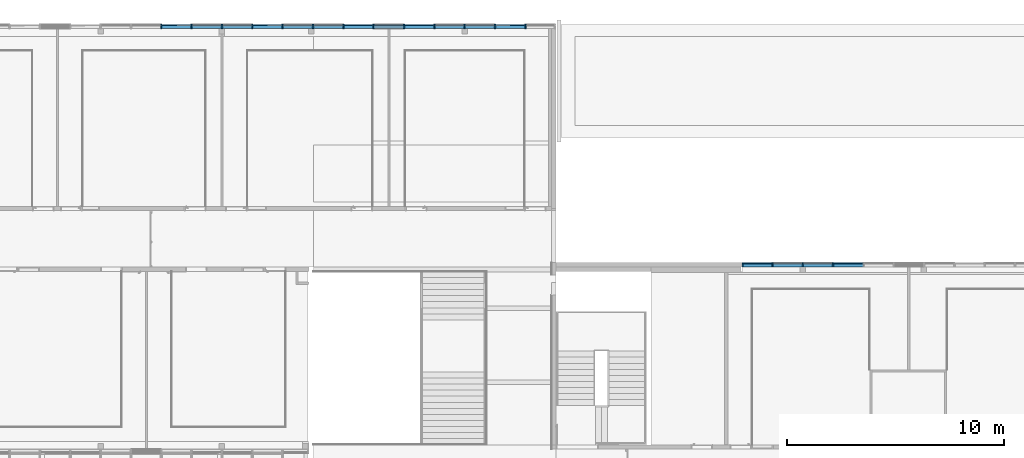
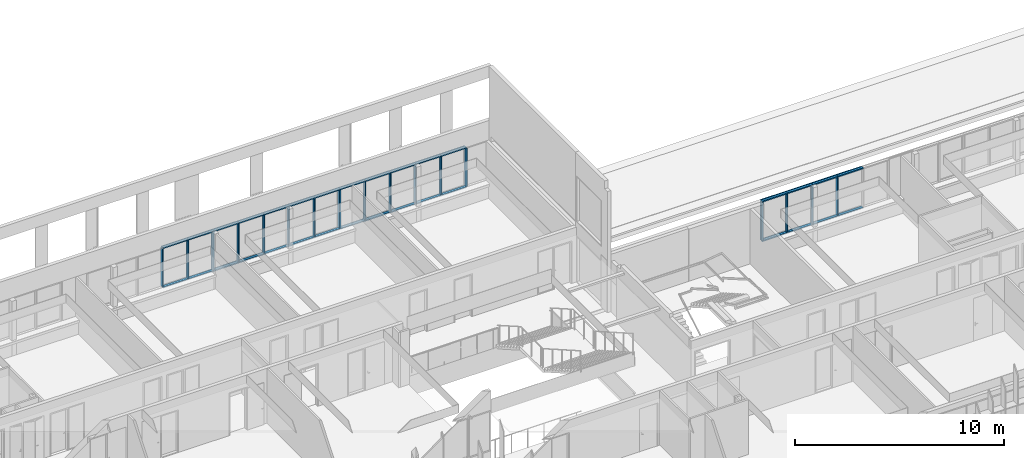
# One storey, part 17 of 106: 49 members, 2 elements without a shape of their own.
"""IFC2X3 building model written with IfcOpenShell, lengths in centimetres."""

from ifc_helpers import new_model, entity, si_unit, converted_unit, derived_unit, direction, frame, origin, place, context, subcontext, project, spatial, polyline, outline, extrude, source, transform, mapped, material, type_object, type_shapes, element, aggregate, save


model = new_model("IFC2X3")

# Units and contexts
model_context = context("Model", 3, precision=0.001, world=origin(), true_north=direction((6.12303176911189e-17, 1.0)))
body_context = subcontext(model_context, "Body", "Model", "MODEL_VIEW")
ifc_project = project(units=[si_unit("LENGTHUNIT", "METRE", prefix="CENTI"), si_unit("AREAUNIT", "SQUARE_METRE"), si_unit("VOLUMEUNIT", "CUBIC_METRE"), converted_unit("PLANEANGLEUNIT", "DEGREE", entity("IfcRatioMeasure", 0.0174532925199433), si_unit("PLANEANGLEUNIT", "RADIAN"), dimensions=[0, 0, 0, 0, 0, 0, 0]), si_unit("MASSUNIT", "GRAM", prefix="KILO"), derived_unit("MASSDENSITYUNIT", [(si_unit("MASSUNIT", "GRAM", prefix="KILO"), 1), (si_unit("LENGTHUNIT", "METRE"), -3)]), si_unit("TIMEUNIT", "SECOND"), si_unit("FREQUENCYUNIT", "HERTZ"), si_unit("THERMODYNAMICTEMPERATUREUNIT", "DEGREE_CELSIUS"), derived_unit("THERMALTRANSMITTANCEUNIT", [(si_unit("MASSUNIT", "GRAM", prefix="KILO"), 1), (si_unit("THERMODYNAMICTEMPERATUREUNIT", "KELVIN"), -1), (si_unit("TIMEUNIT", "SECOND"), -3)]), derived_unit("VOLUMETRICFLOWRATEUNIT", [(si_unit("LENGTHUNIT", "METRE"), 3), (si_unit("TIMEUNIT", "SECOND"), -1)]), si_unit("ELECTRICCURRENTUNIT", "AMPERE"), si_unit("ELECTRICVOLTAGEUNIT", "VOLT"), si_unit("POWERUNIT", "WATT"), si_unit("FORCEUNIT", "NEWTON", prefix="KILO"), si_unit("ILLUMINANCEUNIT", "LUX"), si_unit("LUMINOUSFLUXUNIT", "LUMEN"), si_unit("LUMINOUSINTENSITYUNIT", "CANDELA"), derived_unit("USERDEFINED", [(si_unit("MASSUNIT", "GRAM", prefix="KILO"), -1), (si_unit("LENGTHUNIT", "METRE"), -2), (si_unit("TIMEUNIT", "SECOND"), 3), (si_unit("LUMINOUSFLUXUNIT", "LUMEN"), 1)]), derived_unit("LINEARVELOCITYUNIT", [(si_unit("LENGTHUNIT", "METRE"), 1), (si_unit("TIMEUNIT", "SECOND"), -1)]), si_unit("PRESSUREUNIT", "PASCAL"), derived_unit("USERDEFINED", [(si_unit("LENGTHUNIT", "METRE"), -2), (si_unit("MASSUNIT", "GRAM", prefix="KILO"), 1), (si_unit("TIMEUNIT", "SECOND"), -2)])], contexts=[model_context])

# Site, building, storey
site_placement = place(None, frame((-2781.94577612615, 7442.24238424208, 0.0)))
site = spatial("IfcSite", under=ifc_project, at=site_placement, Name="Default", CompositionType="ELEMENT")
building_placement = place(site_placement, origin())
building = spatial("IfcBuilding", under=site, at=building_placement, CompositionType="ELEMENT")
storey_placement = place(building_placement, frame((0.0, 0.0, 422.0)))
storey = spatial("IfcBuildingStorey", under=building, at=storey_placement, Name="Toiture - Cuisine", CompositionType="ELEMENT", Elevation=421.999999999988)

# Curtain wall, members
curtain_wall_type = type_object("IfcCurtainWallType", Name="Mur-rideau:07 - mur rideau trame 140 cm", PredefinedType="NOTDEFINED")
curtain_wall_1_placement = place(building_placement, origin())
curtain_wall_1 = element("IfcCurtainWall", 1, at=curtain_wall_1_placement, inside=storey, type_object=curtain_wall_type, Name="Mur-rideau:07 - mur rideau trame 140 cm", ObjectType="Mur-rideau:07 - mur rideau trame 140 cm")
ifc_material = material(Name="Aluminium")
member_type_1 = type_object("IfcMemberType", Name="150 x 25mm Détails", PredefinedType="MEMBER")
shared_shape_1 = source(origin(), body_context, "Body", "SweptSolid", [
    extrude(outline(polyline([(-5.6666666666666, -3.24999999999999), (-3.66666666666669, -3.24999999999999), (-3.66666666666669, -0.868749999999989), (-0.166666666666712, -0.868749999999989), (-0.166666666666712, -3.25000000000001), (13.3333333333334, -3.25000000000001), (13.3333333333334, 3.24999999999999), (-0.16666666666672, 3.24999999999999), (-0.16666666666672, 0.868749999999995), (-3.66666666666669, 0.868749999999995), (-3.66666666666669, 3.25), (-5.6666666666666, 3.25), (-5.6666666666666, -3.24999999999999)])), frame((-3.24999999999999, -1.96666666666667, -140.0), z_axis=(0.0, 0.0, 1.0), x_axis=(0.0, -1.0, 0.0)), (0.0, 0.0, 1.0), 140.000000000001),
])
type_shapes(member_type_1, [shared_shape_1])
member_1_placement = place(building_placement, frame((-3929.50004159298, 26.0, 743.0), z_axis=(-1.0, 0.0, 0.0), x_axis=(0.0, 0.0, 1.0)))
member_1 = element("IfcMember", 2, at=member_1_placement, type_object=member_type_1, material=ifc_material, Name="Meneau rectangulaire:150 x 25mm Détails", ObjectType="Meneau rectangulaire:150 x 25mm Détails", context=body_context, shape_type="MappedRepresentation", body=[
    mapped(shared_shape_1, transform((0.0, 0.0, 0.0), scale=1.0)),
])
member_2_placement = place(building_placement, frame((-4069.50004159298, 26.0, 743.0), z_axis=(-1.0, 0.0, 0.0), x_axis=(0.0, 0.0, 1.0)))
member_2 = element("IfcMember", 3, at=member_2_placement, type_object=member_type_1, material=ifc_material, Name="Meneau rectangulaire:150 x 25mm Détails", ObjectType="Meneau rectangulaire:150 x 25mm Détails", context=body_context, shape_type="MappedRepresentation", body=[
    mapped(shared_shape_1, transform((0.0, 0.0, 0.0), scale=1.0)),
])
member_3_placement = place(building_placement, frame((-4209.50004159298, 26.0, 743.0), z_axis=(-1.0, 0.0, 0.0), x_axis=(0.0, 0.0, 1.0)))
member_3 = element("IfcMember", 4, at=member_3_placement, type_object=member_type_1, material=ifc_material, Name="Meneau rectangulaire:150 x 25mm Détails", ObjectType="Meneau rectangulaire:150 x 25mm Détails", context=body_context, shape_type="MappedRepresentation", body=[
    mapped(shared_shape_1, transform((0.0, 0.0, 0.0), scale=1.0)),
])
member_4_placement = place(building_placement, frame((-4349.50004159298, 26.0, 743.0), z_axis=(-1.0, 0.0, 0.0), x_axis=(0.0, 0.0, 1.0)))
member_4 = element("IfcMember", 5, at=member_4_placement, type_object=member_type_1, material=ifc_material, Name="Meneau rectangulaire:150 x 25mm Détails", ObjectType="Meneau rectangulaire:150 x 25mm Détails", context=body_context, shape_type="MappedRepresentation", body=[
    mapped(shared_shape_1, transform((0.0, 0.0, 0.0), scale=1.0)),
])
member_5_placement = place(building_placement, frame((-4489.50004159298, 26.0, 743.0), z_axis=(-1.0, 0.0, 0.0), x_axis=(0.0, 0.0, 1.0)))
member_5 = element("IfcMember", 6, at=member_5_placement, type_object=member_type_1, material=ifc_material, Name="Meneau rectangulaire:150 x 25mm Détails", ObjectType="Meneau rectangulaire:150 x 25mm Détails", context=body_context, shape_type="MappedRepresentation", body=[
    mapped(shared_shape_1, transform((0.0, 0.0, 0.0), scale=1.0)),
])
member_6_placement = place(building_placement, frame((-4629.50004159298, 26.0, 743.0), z_axis=(-1.0, 0.0, 0.0), x_axis=(0.0, 0.0, 1.0)))
member_6 = element("IfcMember", 7, at=member_6_placement, type_object=member_type_1, material=ifc_material, Name="Meneau rectangulaire:150 x 25mm Détails", ObjectType="Meneau rectangulaire:150 x 25mm Détails", context=body_context, shape_type="MappedRepresentation", body=[
    mapped(shared_shape_1, transform((0.0, 0.0, 0.0), scale=1.0)),
])
member_7_placement = place(building_placement, frame((-4769.50004159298, 26.0, 743.0), z_axis=(-1.0, 0.0, 0.0), x_axis=(0.0, 0.0, 1.0)))
member_7 = element("IfcMember", 8, at=member_7_placement, type_object=member_type_1, material=ifc_material, Name="Meneau rectangulaire:150 x 25mm Détails", ObjectType="Meneau rectangulaire:150 x 25mm Détails", context=body_context, shape_type="MappedRepresentation", body=[
    mapped(shared_shape_1, transform((0.0, 0.0, 0.0), scale=1.0)),
])
member_8_placement = place(building_placement, frame((-4909.50004159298, 26.0, 743.0), z_axis=(-1.0, 0.0, 0.0), x_axis=(0.0, 0.0, 1.0)))
member_8 = element("IfcMember", 9, at=member_8_placement, type_object=member_type_1, material=ifc_material, Name="Meneau rectangulaire:150 x 25mm Détails", ObjectType="Meneau rectangulaire:150 x 25mm Détails", context=body_context, shape_type="MappedRepresentation", body=[
    mapped(shared_shape_1, transform((0.0, 0.0, 0.0), scale=1.0)),
])
member_9_placement = place(building_placement, frame((-5049.50004159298, 26.0, 743.0), z_axis=(-1.0, 0.0, 0.0), x_axis=(0.0, 0.0, 1.0)))
member_9 = element("IfcMember", 10, at=member_9_placement, type_object=member_type_1, material=ifc_material, Name="Meneau rectangulaire:150 x 25mm Détails", ObjectType="Meneau rectangulaire:150 x 25mm Détails", context=body_context, shape_type="MappedRepresentation", body=[
    mapped(shared_shape_1, transform((0.0, 0.0, 0.0), scale=1.0)),
])
member_10_placement = place(building_placement, frame((-5189.50004159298, 26.0, 743.0), z_axis=(-1.0, 0.0, 0.0), x_axis=(0.0, 0.0, 1.0)))
member_10 = element("IfcMember", 11, at=member_10_placement, type_object=member_type_1, material=ifc_material, Name="Meneau rectangulaire:150 x 25mm Détails", ObjectType="Meneau rectangulaire:150 x 25mm Détails", context=body_context, shape_type="MappedRepresentation", body=[
    mapped(shared_shape_1, transform((0.0, 0.0, 0.0), scale=1.0)),
])
member_11_placement = place(building_placement, frame((-5329.50004159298, 26.0, 743.0), z_axis=(-1.0, 0.0, 0.0), x_axis=(0.0, 0.0, 1.0)))
member_11 = element("IfcMember", 12, at=member_11_placement, type_object=member_type_1, material=ifc_material, Name="Meneau rectangulaire:150 x 25mm Détails", ObjectType="Meneau rectangulaire:150 x 25mm Détails", context=body_context, shape_type="MappedRepresentation", body=[
    mapped(shared_shape_1, transform((0.0, 0.0, 0.0), scale=1.0)),
])
member_12_placement = place(building_placement, frame((-5469.50004159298, 26.0, 743.0), z_axis=(-1.0, 0.0, 0.0), x_axis=(0.0, 0.0, 1.0)))
member_12 = element("IfcMember", 13, at=member_12_placement, type_object=member_type_1, material=ifc_material, Name="Meneau rectangulaire:150 x 25mm Détails", ObjectType="Meneau rectangulaire:150 x 25mm Détails", context=body_context, shape_type="MappedRepresentation", body=[
    mapped(shared_shape_1, transform((0.0, 0.0, 0.0), scale=1.0)),
])
member_type_2 = type_object("IfcMemberType", Name="150 x 25mm Détails", PredefinedType="MEMBER")
shared_shape_2 = source(origin(), body_context, "Body", "SweptSolid", [
    extrude(outline(polyline([(-5.66666666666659, -3.25), (-3.66666666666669, -3.25), (-3.66666666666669, -0.868749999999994), (-0.166666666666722, -0.868749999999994), (-0.166666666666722, -3.25000000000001), (13.3333333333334, -3.24999999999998), (13.3333333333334, 3.25000000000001), (-0.166666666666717, 3.25000000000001), (-0.166666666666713, 0.868749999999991), (-3.66666666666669, 0.868749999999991), (-3.66666666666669, 3.24999999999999), (-5.66666666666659, 3.24999999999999), (-5.66666666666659, -3.25)])), frame((-3.24999999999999, -1.96666666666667, -140.0), z_axis=(0.0, 0.0, 1.0), x_axis=(0.0, -1.0, 0.0)), (0.0, 0.0, 1.0), 140.000000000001),
])
type_shapes(member_type_2, [shared_shape_2])
member_13_placement = place(building_placement, frame((-3789.50004159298, 26.0, 505.5), z_axis=(1.0, 0.0, 0.0), x_axis=(0.0, 0.0, -1.0)))
member_13 = element("IfcMember", 14, at=member_13_placement, type_object=member_type_2, material=ifc_material, Name="Meneau rectangulaire:150 x 25mm Détails", ObjectType="Meneau rectangulaire:150 x 25mm Détails", context=body_context, shape_type="MappedRepresentation", body=[
    mapped(shared_shape_2, transform((0.0, 0.0, 0.0), scale=1.0)),
])
member_14_placement = place(building_placement, frame((-3929.50004159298, 26.0, 505.5), z_axis=(1.0, 0.0, 0.0), x_axis=(0.0, 0.0, -1.0)))
member_14 = element("IfcMember", 15, at=member_14_placement, type_object=member_type_2, material=ifc_material, Name="Meneau rectangulaire:150 x 25mm Détails", ObjectType="Meneau rectangulaire:150 x 25mm Détails", context=body_context, shape_type="MappedRepresentation", body=[
    mapped(shared_shape_2, transform((0.0, 0.0, 0.0), scale=1.0)),
])
member_15_placement = place(building_placement, frame((-4069.50004159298, 26.0, 505.5), z_axis=(1.0, 0.0, 0.0), x_axis=(0.0, 0.0, -1.0)))
member_15 = element("IfcMember", 16, at=member_15_placement, type_object=member_type_2, material=ifc_material, Name="Meneau rectangulaire:150 x 25mm Détails", ObjectType="Meneau rectangulaire:150 x 25mm Détails", context=body_context, shape_type="MappedRepresentation", body=[
    mapped(shared_shape_2, transform((0.0, 0.0, 0.0), scale=1.0)),
])
member_16_placement = place(building_placement, frame((-4209.50004159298, 26.0, 505.5), z_axis=(1.0, 0.0, 0.0), x_axis=(0.0, 0.0, -1.0)))
member_16 = element("IfcMember", 17, at=member_16_placement, type_object=member_type_2, material=ifc_material, Name="Meneau rectangulaire:150 x 25mm Détails", ObjectType="Meneau rectangulaire:150 x 25mm Détails", context=body_context, shape_type="MappedRepresentation", body=[
    mapped(shared_shape_2, transform((0.0, 0.0, 0.0), scale=1.0)),
])
member_17_placement = place(building_placement, frame((-4349.50004159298, 26.0, 505.5), z_axis=(1.0, 0.0, 0.0), x_axis=(0.0, 0.0, -1.0)))
member_17 = element("IfcMember", 18, at=member_17_placement, type_object=member_type_2, material=ifc_material, Name="Meneau rectangulaire:150 x 25mm Détails", ObjectType="Meneau rectangulaire:150 x 25mm Détails", context=body_context, shape_type="MappedRepresentation", body=[
    mapped(shared_shape_2, transform((0.0, 0.0, 0.0), scale=1.0)),
])
member_18_placement = place(building_placement, frame((-4489.50004159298, 26.0, 505.5), z_axis=(1.0, 0.0, 0.0), x_axis=(0.0, 0.0, -1.0)))
member_18 = element("IfcMember", 19, at=member_18_placement, type_object=member_type_2, material=ifc_material, Name="Meneau rectangulaire:150 x 25mm Détails", ObjectType="Meneau rectangulaire:150 x 25mm Détails", context=body_context, shape_type="MappedRepresentation", body=[
    mapped(shared_shape_2, transform((0.0, 0.0, 0.0), scale=1.0)),
])
member_19_placement = place(building_placement, frame((-4629.50004159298, 26.0, 505.5), z_axis=(1.0, 0.0, 0.0), x_axis=(0.0, 0.0, -1.0)))
member_19 = element("IfcMember", 20, at=member_19_placement, type_object=member_type_2, material=ifc_material, Name="Meneau rectangulaire:150 x 25mm Détails", ObjectType="Meneau rectangulaire:150 x 25mm Détails", context=body_context, shape_type="MappedRepresentation", body=[
    mapped(shared_shape_2, transform((0.0, 0.0, 0.0), scale=1.0)),
])
member_20_placement = place(building_placement, frame((-4769.50004159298, 26.0, 505.5), z_axis=(1.0, 0.0, 0.0), x_axis=(0.0, 0.0, -1.0)))
member_20 = element("IfcMember", 21, at=member_20_placement, type_object=member_type_2, material=ifc_material, Name="Meneau rectangulaire:150 x 25mm Détails", ObjectType="Meneau rectangulaire:150 x 25mm Détails", context=body_context, shape_type="MappedRepresentation", body=[
    mapped(shared_shape_2, transform((0.0, 0.0, 0.0), scale=1.0)),
])
member_21_placement = place(building_placement, frame((-4909.50004159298, 26.0, 505.5), z_axis=(1.0, 0.0, 0.0), x_axis=(0.0, 0.0, -1.0)))
member_21 = element("IfcMember", 22, at=member_21_placement, type_object=member_type_2, material=ifc_material, Name="Meneau rectangulaire:150 x 25mm Détails", ObjectType="Meneau rectangulaire:150 x 25mm Détails", context=body_context, shape_type="MappedRepresentation", body=[
    mapped(shared_shape_2, transform((0.0, 0.0, 0.0), scale=1.0)),
])
member_22_placement = place(building_placement, frame((-5049.50004159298, 26.0, 505.5), z_axis=(1.0, 0.0, 0.0), x_axis=(0.0, 0.0, -1.0)))
member_22 = element("IfcMember", 23, at=member_22_placement, type_object=member_type_2, material=ifc_material, Name="Meneau rectangulaire:150 x 25mm Détails", ObjectType="Meneau rectangulaire:150 x 25mm Détails", context=body_context, shape_type="MappedRepresentation", body=[
    mapped(shared_shape_2, transform((0.0, 0.0, 0.0), scale=1.0)),
])
member_23_placement = place(building_placement, frame((-5189.50004159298, 26.0, 505.5), z_axis=(1.0, 0.0, 0.0), x_axis=(0.0, 0.0, -1.0)))
member_23 = element("IfcMember", 24, at=member_23_placement, type_object=member_type_2, material=ifc_material, Name="Meneau rectangulaire:150 x 25mm Détails", ObjectType="Meneau rectangulaire:150 x 25mm Détails", context=body_context, shape_type="MappedRepresentation", body=[
    mapped(shared_shape_2, transform((0.0, 0.0, 0.0), scale=1.0)),
])
member_24_placement = place(building_placement, frame((-5329.50004159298, 26.0, 505.5), z_axis=(1.0, 0.0, 0.0), x_axis=(0.0, 0.0, -1.0)))
member_24 = element("IfcMember", 25, at=member_24_placement, type_object=member_type_2, material=ifc_material, Name="Meneau rectangulaire:150 x 25mm Détails", ObjectType="Meneau rectangulaire:150 x 25mm Détails", context=body_context, shape_type="MappedRepresentation", body=[
    mapped(shared_shape_2, transform((0.0, 0.0, 0.0), scale=1.0)),
])
member_type_3 = type_object("IfcMemberType", Name="150 x 25mm Détails", PredefinedType="MEMBER")
shared_shape_3 = source(origin(), body_context, "Body", "SweptSolid", [
    extrude(outline(polyline([(-5.6666666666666, -3.24999999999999), (-3.66666666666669, -3.24999999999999), (-3.66666666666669, -0.86874999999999), (-0.166666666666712, -0.86874999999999), (-0.166666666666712, -3.25000000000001), (13.3333333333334, -3.25000000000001), (13.3333333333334, 3.24999999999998), (-0.16666666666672, 3.24999999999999), (-0.16666666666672, 0.868749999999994), (-3.66666666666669, 0.868749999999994), (-3.66666666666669, 3.25), (-5.6666666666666, 3.25), (-5.6666666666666, -3.24999999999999)])), frame((0.0, -1.96666666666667, -224.5), z_axis=(0.0, 0.0, 1.0), x_axis=(0.0, -1.0, 0.0)), (0.0, 0.0, 1.0), 224.5),
])
type_shapes(member_type_3, [shared_shape_3])
member_25_placement = place(building_placement, frame((-3789.50004159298, 26.0, 512.0), z_axis=(0.0, 0.0, -1.0), x_axis=(-1.0, 0.0, 0.0)))
member_25 = element("IfcMember", 26, at=member_25_placement, type_object=member_type_3, material=ifc_material, Name="Meneau rectangulaire:150 x 25mm Détails", ObjectType="Meneau rectangulaire:150 x 25mm Détails", context=body_context, shape_type="MappedRepresentation", body=[
    mapped(shared_shape_3, transform((0.0, 0.0, 0.0), scale=1.0)),
])
member_26_placement = place(building_placement, frame((-3929.50004159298, 26.0, 512.0), z_axis=(0.0, 0.0, -1.0), x_axis=(-1.0, 0.0, 0.0)))
member_26 = element("IfcMember", 27, at=member_26_placement, type_object=member_type_3, material=ifc_material, Name="Meneau rectangulaire:150 x 25mm Détails", ObjectType="Meneau rectangulaire:150 x 25mm Détails", context=body_context, shape_type="MappedRepresentation", body=[
    mapped(shared_shape_3, transform((0.0, 0.0, 0.0), scale=1.0)),
])
member_27_placement = place(building_placement, frame((-4069.50004159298, 26.0, 512.0), z_axis=(0.0, 0.0, -1.0), x_axis=(-1.0, 0.0, 0.0)))
member_27 = element("IfcMember", 28, at=member_27_placement, type_object=member_type_3, material=ifc_material, Name="Meneau rectangulaire:150 x 25mm Détails", ObjectType="Meneau rectangulaire:150 x 25mm Détails", context=body_context, shape_type="MappedRepresentation", body=[
    mapped(shared_shape_3, transform((0.0, 0.0, 0.0), scale=1.0)),
])
member_28_placement = place(building_placement, frame((-4209.50004159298, 26.0, 512.0), z_axis=(0.0, 0.0, -1.0), x_axis=(-1.0, 0.0, 0.0)))
member_28 = element("IfcMember", 29, at=member_28_placement, type_object=member_type_3, material=ifc_material, Name="Meneau rectangulaire:150 x 25mm Détails", ObjectType="Meneau rectangulaire:150 x 25mm Détails", context=body_context, shape_type="MappedRepresentation", body=[
    mapped(shared_shape_3, transform((0.0, 0.0, 0.0), scale=1.0)),
])
member_29_placement = place(building_placement, frame((-4349.50004159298, 26.0, 512.0), z_axis=(0.0, 0.0, -1.0), x_axis=(-1.0, 0.0, 0.0)))
member_29 = element("IfcMember", 30, at=member_29_placement, type_object=member_type_3, material=ifc_material, Name="Meneau rectangulaire:150 x 25mm Détails", ObjectType="Meneau rectangulaire:150 x 25mm Détails", context=body_context, shape_type="MappedRepresentation", body=[
    mapped(shared_shape_3, transform((0.0, 0.0, 0.0), scale=1.0)),
])
member_30_placement = place(building_placement, frame((-4489.50004159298, 26.0, 512.0), z_axis=(0.0, 0.0, -1.0), x_axis=(-1.0, 0.0, 0.0)))
member_30 = element("IfcMember", 31, at=member_30_placement, type_object=member_type_3, material=ifc_material, Name="Meneau rectangulaire:150 x 25mm Détails", ObjectType="Meneau rectangulaire:150 x 25mm Détails", context=body_context, shape_type="MappedRepresentation", body=[
    mapped(shared_shape_3, transform((0.0, 0.0, 0.0), scale=1.0)),
])
member_31_placement = place(building_placement, frame((-4629.50004159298, 26.0, 512.0), z_axis=(0.0, 0.0, -1.0), x_axis=(-1.0, 0.0, 0.0)))
member_31 = element("IfcMember", 32, at=member_31_placement, type_object=member_type_3, material=ifc_material, Name="Meneau rectangulaire:150 x 25mm Détails", ObjectType="Meneau rectangulaire:150 x 25mm Détails", context=body_context, shape_type="MappedRepresentation", body=[
    mapped(shared_shape_3, transform((0.0, 0.0, 0.0), scale=1.0)),
])
member_32_placement = place(building_placement, frame((-4769.50004159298, 26.0, 512.0), z_axis=(0.0, 0.0, -1.0), x_axis=(-1.0, 0.0, 0.0)))
member_32 = element("IfcMember", 33, at=member_32_placement, type_object=member_type_3, material=ifc_material, Name="Meneau rectangulaire:150 x 25mm Détails", ObjectType="Meneau rectangulaire:150 x 25mm Détails", context=body_context, shape_type="MappedRepresentation", body=[
    mapped(shared_shape_3, transform((0.0, 0.0, 0.0), scale=1.0)),
])
member_33_placement = place(building_placement, frame((-4909.50004159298, 26.0, 512.0), z_axis=(0.0, 0.0, -1.0), x_axis=(-1.0, 0.0, 0.0)))
member_33 = element("IfcMember", 34, at=member_33_placement, type_object=member_type_3, material=ifc_material, Name="Meneau rectangulaire:150 x 25mm Détails", ObjectType="Meneau rectangulaire:150 x 25mm Détails", context=body_context, shape_type="MappedRepresentation", body=[
    mapped(shared_shape_3, transform((0.0, 0.0, 0.0), scale=1.0)),
])
member_34_placement = place(building_placement, frame((-5049.50004159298, 26.0, 512.0), z_axis=(0.0, 0.0, -1.0), x_axis=(-1.0, 0.0, 0.0)))
member_34 = element("IfcMember", 35, at=member_34_placement, type_object=member_type_3, material=ifc_material, Name="Meneau rectangulaire:150 x 25mm Détails", ObjectType="Meneau rectangulaire:150 x 25mm Détails", context=body_context, shape_type="MappedRepresentation", body=[
    mapped(shared_shape_3, transform((0.0, 0.0, 0.0), scale=1.0)),
])
member_35_placement = place(building_placement, frame((-5189.50004159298, 26.0, 512.0), z_axis=(0.0, 0.0, -1.0), x_axis=(-1.0, 0.0, 0.0)))
member_35 = element("IfcMember", 36, at=member_35_placement, type_object=member_type_3, material=ifc_material, Name="Meneau rectangulaire:150 x 25mm Détails", ObjectType="Meneau rectangulaire:150 x 25mm Détails", context=body_context, shape_type="MappedRepresentation", body=[
    mapped(shared_shape_3, transform((0.0, 0.0, 0.0), scale=1.0)),
])
member_36_placement = place(building_placement, frame((-5329.50004159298, 26.0, 512.0), z_axis=(0.0, 0.0, -1.0), x_axis=(-1.0, 0.0, 0.0)))
member_36 = element("IfcMember", 37, at=member_36_placement, type_object=member_type_3, material=ifc_material, Name="Meneau rectangulaire:150 x 25mm Détails", ObjectType="Meneau rectangulaire:150 x 25mm Détails", context=body_context, shape_type="MappedRepresentation", body=[
    mapped(shared_shape_3, transform((0.0, 0.0, 0.0), scale=1.0)),
])
member_37_placement = place(building_placement, frame((-5469.50004159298, 26.0, 512.0), z_axis=(0.0, 0.0, -1.0), x_axis=(-1.0, 0.0, 0.0)))
member_37 = element("IfcMember", 38, at=member_37_placement, type_object=member_type_3, material=ifc_material, Name="Meneau rectangulaire:150 x 25mm Détails", ObjectType="Meneau rectangulaire:150 x 25mm Détails", context=body_context, shape_type="MappedRepresentation", body=[
    mapped(shared_shape_3, transform((0.0, 0.0, 0.0), scale=1.0)),
])
aggregate(curtain_wall_1, [member_1, member_2, member_3, member_4, member_5, member_6, member_7, member_8, member_9, member_10, member_11, member_12, member_13, member_14, member_15, member_16, member_17, member_18, member_19, member_20, member_21, member_22, member_23, member_24, member_25, member_26, member_27, member_28, member_29, member_30, member_31, member_32, member_33, member_34, member_35, member_36, member_37])

curtain_wall_2_placement = place(building_placement, origin())
curtain_wall_2 = element("IfcCurtainWall", 39, at=curtain_wall_2_placement, inside=storey, type_object=curtain_wall_type, Name="Mur-rideau:07 - mur rideau trame 140 cm", ObjectType="Mur-rideau:07 - mur rideau trame 140 cm")
member_type_4 = type_object("IfcMemberType", Name="150 x 25mm Détails", PredefinedType="MEMBER")
shared_shape_4 = source(origin(), body_context, "Body", "SweptSolid", [
    extrude(outline(polyline([(-13.3333333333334, -3.25000000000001), (0.166666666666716, -3.25000000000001), (0.166666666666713, -0.86874999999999), (3.66666666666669, -0.86874999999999), (3.66666666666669, -3.24999999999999), (5.66666666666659, -3.24999999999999), (5.66666666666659, 3.25), (3.66666666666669, 3.25), (3.66666666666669, 0.868749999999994), (0.166666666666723, 0.868749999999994), (0.166666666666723, 3.25000000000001), (-13.3333333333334, 3.24999999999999), (-13.3333333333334, -3.25000000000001)])), frame((-3.24999999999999, 1.96666666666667, -140.0), z_axis=(0.0, 0.0, 1.0), x_axis=(0.0, -1.0, 0.0)), (0.0, 0.0, 1.0), 140.00000003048),
])
type_shapes(member_type_4, [shared_shape_4])
member_38_placement = place(building_placement, frame((-2649.29988284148, -1073.7999999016, 743.0), z_axis=(1.0, 0.0, 0.0), x_axis=(0.0, 0.0, 1.0)))
member_38 = element("IfcMember", 40, at=member_38_placement, type_object=member_type_4, material=ifc_material, Name="Meneau rectangulaire:150 x 25mm Détails", ObjectType="Meneau rectangulaire:150 x 25mm Détails", context=body_context, shape_type="MappedRepresentation", body=[
    mapped(shared_shape_4, transform((0.0, 0.0, 0.0), scale=1.0)),
])
member_type_5 = type_object("IfcMemberType", Name="150 x 25mm Détails", PredefinedType="MEMBER")
shared_shape_5 = source(origin(), body_context, "Body", "SweptSolid", [
    extrude(outline(polyline([(-13.3333333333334, -3.25000000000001), (0.166666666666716, -3.25000000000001), (0.166666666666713, -0.86874999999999), (3.66666666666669, -0.86874999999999), (3.66666666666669, -3.24999999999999), (5.66666666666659, -3.24999999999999), (5.66666666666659, 3.25), (3.66666666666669, 3.25), (3.66666666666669, 0.868749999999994), (0.166666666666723, 0.868749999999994), (0.166666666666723, 3.25000000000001), (-13.3333333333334, 3.24999999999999), (-13.3333333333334, -3.25000000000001)])), frame((-3.24999999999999, 1.96666666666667, -140.0), z_axis=(0.0, 0.0, 1.0), x_axis=(0.0, -1.0, 0.0)), (0.0, 0.0, 1.0), 140.0),
])
type_shapes(member_type_5, [shared_shape_5])
member_39_placement = place(building_placement, frame((-2509.29988284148, -1073.7999999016, 743.0), z_axis=(1.0, 0.0, 0.0), x_axis=(0.0, 0.0, 1.0)))
member_39 = element("IfcMember", 41, at=member_39_placement, type_object=member_type_5, material=ifc_material, Name="Meneau rectangulaire:150 x 25mm Détails", ObjectType="Meneau rectangulaire:150 x 25mm Détails", context=body_context, shape_type="MappedRepresentation", body=[
    mapped(shared_shape_5, transform((0.0, 0.0, 0.0), scale=1.0)),
])
member_40_placement = place(building_placement, frame((-2369.29988284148, -1073.7999999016, 743.0), z_axis=(1.0, 0.0, 0.0), x_axis=(0.0, 0.0, 1.0)))
member_40 = element("IfcMember", 42, at=member_40_placement, type_object=member_type_5, material=ifc_material, Name="Meneau rectangulaire:150 x 25mm Détails", ObjectType="Meneau rectangulaire:150 x 25mm Détails", context=body_context, shape_type="MappedRepresentation", body=[
    mapped(shared_shape_5, transform((0.0, 0.0, 0.0), scale=1.0)),
])
member_41_placement = place(building_placement, frame((-2229.29988284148, -1073.7999999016, 743.0), z_axis=(1.0, 0.0, 0.0), x_axis=(0.0, 0.0, 1.0)))
member_41 = element("IfcMember", 43, at=member_41_placement, type_object=member_type_5, material=ifc_material, Name="Meneau rectangulaire:150 x 25mm Détails", ObjectType="Meneau rectangulaire:150 x 25mm Détails", context=body_context, shape_type="MappedRepresentation", body=[
    mapped(shared_shape_5, transform((0.0, 0.0, 0.0), scale=1.0)),
])
member_type_6 = type_object("IfcMemberType", Name="150 x 25mm Détails", PredefinedType="MEMBER")
shared_shape_6 = source(origin(), body_context, "Body", "SweptSolid", [
    extrude(outline(polyline([(-13.3333333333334, -3.24999999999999), (0.166666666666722, -3.24999999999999), (0.166666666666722, -0.868749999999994), (3.66666666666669, -0.868749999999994), (3.66666666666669, -3.25), (5.66666666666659, -3.25), (5.66666666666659, 3.24999999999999), (3.66666666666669, 3.24999999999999), (3.66666666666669, 0.86874999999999), (0.166666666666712, 0.86874999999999), (0.166666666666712, 3.25000000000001), (-13.3333333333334, 3.25000000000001), (-13.3333333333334, -3.24999999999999)])), frame((-3.24999999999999, 1.96666666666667, -140.0), z_axis=(0.0, 0.0, 1.0), x_axis=(0.0, -1.0, 0.0)), (0.0, 0.0, 1.0), 140.00000003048),
])
type_shapes(member_type_6, [shared_shape_6])
member_42_placement = place(building_placement, frame((-2789.29988287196, -1073.7999999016, 505.5), z_axis=(-1.0, 0.0, 0.0), x_axis=(0.0, 0.0, -1.0)))
member_42 = element("IfcMember", 44, at=member_42_placement, type_object=member_type_6, material=ifc_material, Name="Meneau rectangulaire:150 x 25mm Détails", ObjectType="Meneau rectangulaire:150 x 25mm Détails", context=body_context, shape_type="MappedRepresentation", body=[
    mapped(shared_shape_6, transform((0.0, 0.0, 0.0), scale=1.0)),
])
member_type_7 = type_object("IfcMemberType", Name="150 x 25mm Détails", PredefinedType="MEMBER")
shared_shape_7 = source(origin(), body_context, "Body", "SweptSolid", [
    extrude(outline(polyline([(-13.3333333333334, -3.24999999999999), (0.166666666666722, -3.24999999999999), (0.166666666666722, -0.868749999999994), (3.66666666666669, -0.868749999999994), (3.66666666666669, -3.25), (5.66666666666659, -3.25), (5.66666666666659, 3.24999999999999), (3.66666666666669, 3.24999999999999), (3.66666666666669, 0.86874999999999), (0.166666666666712, 0.86874999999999), (0.166666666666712, 3.25000000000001), (-13.3333333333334, 3.25000000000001), (-13.3333333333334, -3.24999999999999)])), frame((-3.24999999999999, 1.96666666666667, -140.0), z_axis=(0.0, 0.0, 1.0), x_axis=(0.0, -1.0, 0.0)), (0.0, 0.0, 1.0), 140.0),
])
type_shapes(member_type_7, [shared_shape_7])
member_43_placement = place(building_placement, frame((-2649.29988284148, -1073.7999999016, 505.5), z_axis=(-1.0, 0.0, 0.0), x_axis=(0.0, 0.0, -1.0)))
member_43 = element("IfcMember", 45, at=member_43_placement, type_object=member_type_7, material=ifc_material, Name="Meneau rectangulaire:150 x 25mm Détails", ObjectType="Meneau rectangulaire:150 x 25mm Détails", context=body_context, shape_type="MappedRepresentation", body=[
    mapped(shared_shape_7, transform((0.0, 0.0, 0.0), scale=1.0)),
])
member_44_placement = place(building_placement, frame((-2509.29988284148, -1073.7999999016, 505.5), z_axis=(-1.0, 0.0, 0.0), x_axis=(0.0, 0.0, -1.0)))
member_44 = element("IfcMember", 46, at=member_44_placement, type_object=member_type_7, material=ifc_material, Name="Meneau rectangulaire:150 x 25mm Détails", ObjectType="Meneau rectangulaire:150 x 25mm Détails", context=body_context, shape_type="MappedRepresentation", body=[
    mapped(shared_shape_7, transform((0.0, 0.0, 0.0), scale=1.0)),
])
member_45_placement = place(building_placement, frame((-2369.29988284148, -1073.7999999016, 505.5), z_axis=(-1.0, 0.0, 0.0), x_axis=(0.0, 0.0, -1.0)))
member_45 = element("IfcMember", 47, at=member_45_placement, type_object=member_type_7, material=ifc_material, Name="Meneau rectangulaire:150 x 25mm Détails", ObjectType="Meneau rectangulaire:150 x 25mm Détails", context=body_context, shape_type="MappedRepresentation", body=[
    mapped(shared_shape_7, transform((0.0, 0.0, 0.0), scale=1.0)),
])
member_type_8 = type_object("IfcMemberType", Name="150 x 25mm Détails", PredefinedType="MEMBER")
shared_shape_8 = source(origin(), body_context, "Body", "SweptSolid", [
    extrude(outline(polyline([(-13.3333333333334, -3.24999999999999), (0.166666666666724, -3.24999999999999), (0.166666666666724, -0.868749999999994), (3.66666666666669, -0.868749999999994), (3.66666666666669, -3.25), (5.6666666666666, -3.25), (5.6666666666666, 3.24999999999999), (3.66666666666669, 3.24999999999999), (3.66666666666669, 0.86874999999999), (0.166666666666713, 0.86874999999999), (0.166666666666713, 3.25000000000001), (-13.3333333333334, 3.25000000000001), (-13.3333333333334, -3.24999999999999)])), frame((-3.24999999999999, 1.96666666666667, -224.5), z_axis=(0.0, 0.0, 1.0), x_axis=(0.0, -1.0, 0.0)), (0.0, 0.0, 1.0), 224.5),
])
type_shapes(member_type_8, [shared_shape_8])
member_46_placement = place(building_placement, frame((-2789.29988287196, -1073.7999999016, 736.5), z_axis=(0.0, 0.0, 1.0), x_axis=(-1.0, 0.0, 0.0)))
member_46 = element("IfcMember", 48, at=member_46_placement, type_object=member_type_8, material=ifc_material, Name="Meneau rectangulaire:150 x 25mm Détails", ObjectType="Meneau rectangulaire:150 x 25mm Détails", context=body_context, shape_type="MappedRepresentation", body=[
    mapped(shared_shape_8, transform((0.0, 0.0, 0.0), scale=1.0)),
])
member_type_9 = type_object("IfcMemberType", Name="150 x 25mm Détails", PredefinedType="MEMBER")
shared_shape_9 = source(origin(), body_context, "Body", "SweptSolid", [
    extrude(outline(polyline([(-13.3333333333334, -3.25000000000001), (0.166666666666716, -3.25000000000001), (0.166666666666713, -0.86874999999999), (3.66666666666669, -0.86874999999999), (3.66666666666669, -3.24999999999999), (5.66666666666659, -3.24999999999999), (5.66666666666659, 3.25), (3.66666666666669, 3.25), (3.66666666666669, 0.868749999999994), (0.166666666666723, 0.868749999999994), (0.166666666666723, 3.25000000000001), (-13.3333333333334, 3.24999999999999), (-13.3333333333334, -3.25000000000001)])), frame((0.0, 1.96666666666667, -224.5), z_axis=(0.0, 0.0, 1.0), x_axis=(0.0, -1.0, 0.0)), (0.0, 0.0, 1.0), 224.5),
])
type_shapes(member_type_9, [shared_shape_9])
member_47_placement = place(building_placement, frame((-2649.29988284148, -1073.7999999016, 512.0), z_axis=(0.0, 0.0, -1.0), x_axis=(1.0, 0.0, 0.0)))
member_47 = element("IfcMember", 49, at=member_47_placement, type_object=member_type_9, material=ifc_material, Name="Meneau rectangulaire:150 x 25mm Détails", ObjectType="Meneau rectangulaire:150 x 25mm Détails", context=body_context, shape_type="MappedRepresentation", body=[
    mapped(shared_shape_9, transform((0.0, 0.0, 0.0), scale=1.0)),
])
member_48_placement = place(building_placement, frame((-2509.29988284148, -1073.7999999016, 512.0), z_axis=(0.0, 0.0, -1.0), x_axis=(1.0, 0.0, 0.0)))
member_48 = element("IfcMember", 50, at=member_48_placement, type_object=member_type_9, material=ifc_material, Name="Meneau rectangulaire:150 x 25mm Détails", ObjectType="Meneau rectangulaire:150 x 25mm Détails", context=body_context, shape_type="MappedRepresentation", body=[
    mapped(shared_shape_9, transform((0.0, 0.0, 0.0), scale=1.0)),
])
member_49_placement = place(building_placement, frame((-2369.29988284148, -1073.7999999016, 512.0), z_axis=(0.0, 0.0, -1.0), x_axis=(1.0, 0.0, 0.0)))
member_49 = element("IfcMember", 51, at=member_49_placement, type_object=member_type_9, material=ifc_material, Name="Meneau rectangulaire:150 x 25mm Détails", ObjectType="Meneau rectangulaire:150 x 25mm Détails", context=body_context, shape_type="MappedRepresentation", body=[
    mapped(shared_shape_9, transform((0.0, 0.0, 0.0), scale=1.0)),
])
aggregate(curtain_wall_2, [member_38, member_39, member_40, member_41, member_42, member_43, member_44, member_45, member_46, member_47, member_48, member_49])

save(model, "model.ifc")
